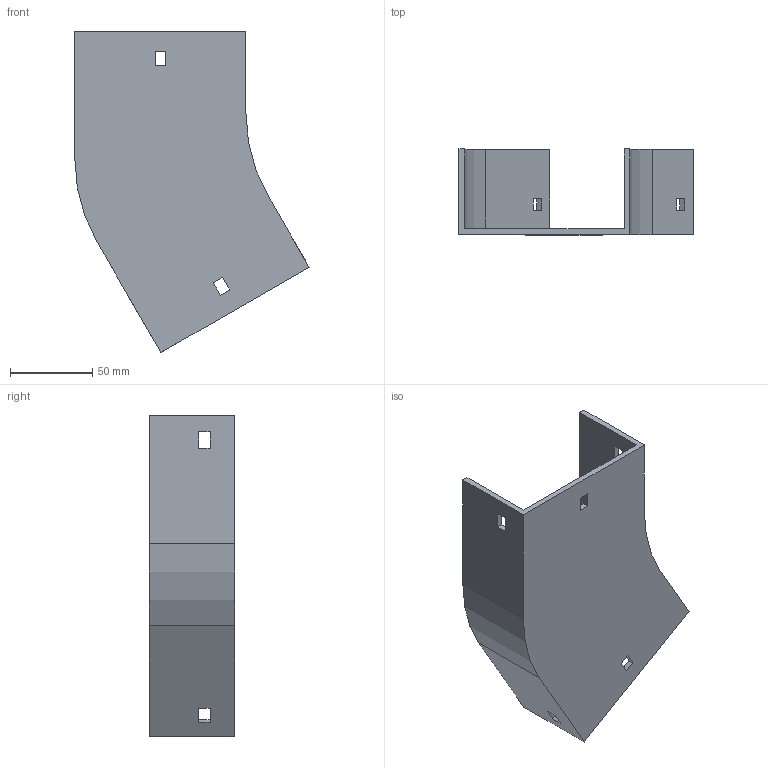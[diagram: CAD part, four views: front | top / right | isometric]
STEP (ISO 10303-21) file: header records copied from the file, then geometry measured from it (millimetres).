
FILE_DESCRIPTION (( 'STEP AP214' ), '1' );
FILE_NAME ('12B1B100.step', '2025-02-21T09:34:22', ( '' ), ( '' ), 'SwSTEP 2.0', 'SolidWorks 2023', '' );
FILE_SCHEMA (( 'AUTOMOTIVE_DESIGN' ));
Length unit declared in the file: millimetre
Products named in the file (1): 12B1B100
Bounding box: 142.4 x 52 x 195.3 mm (x, y, z)
Volume: 125847.6 mm3; surface area: 75274.5 mm2
Topology: 1 solids, 1 shells, 42 faces, 120 edges, 80 vertices
Faces by surface type: plane 38, cylinder 4
Entity records: 1399 total; most frequent: CARTESIAN_POINT 243, ORIENTED_EDGE 240, DIRECTION 214, EDGE_CURVE 120, LINE 112, VECTOR 112, VERTEX_POINT 80, EDGE_LOOP 54
